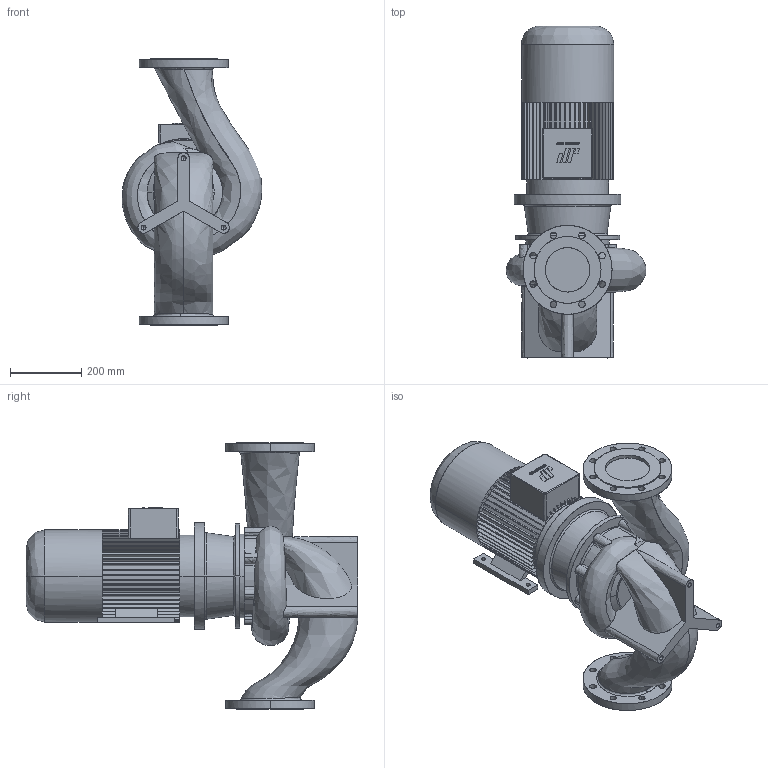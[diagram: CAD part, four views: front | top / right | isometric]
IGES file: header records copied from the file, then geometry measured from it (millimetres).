
Start section: CombiLine
Global section: file name: CLB_125-200_IEC132M_ND10.igs; native system:  By UGS Corp.; preprocessor: XPlus GENERIC/IGES 3.0; author: Stageplaats; organization: Johnson Pump Water B.V.; date: 20070717.133134; units: millimetre
Bounding box: 392.93 x 933 x 750 mm (x, y, z)
Surface area: 1903757.7 mm2 (no closed solid volume)
Topology: 0 solids, 0 shells, 600 faces, 3637 edges, 3631 vertices
Faces by surface type: bspline 600
